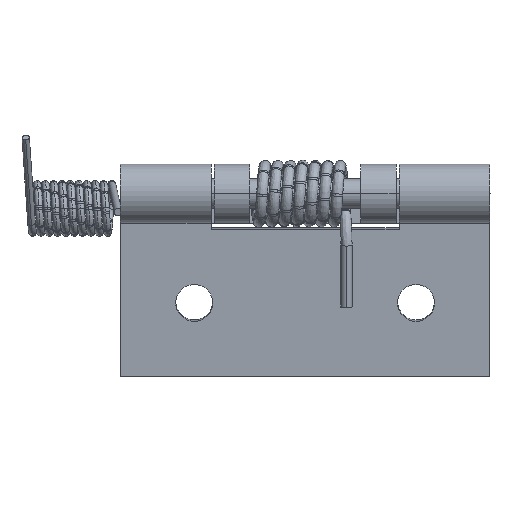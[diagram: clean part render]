
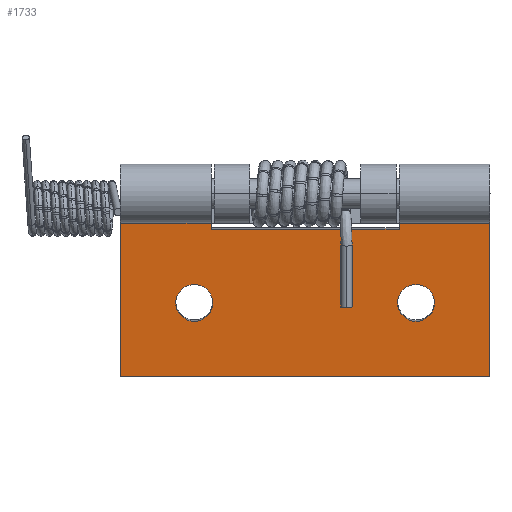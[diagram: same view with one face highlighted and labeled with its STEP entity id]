
A CAD part, left-side view. The second image highlights one B-rep face of the part: STEP entity #1733.
In plain terms, the highlighted planar face has unit normal (-0.996, 0, -0.087) as drawn and (0, 1, 0) by its records, which use the part's own axes.
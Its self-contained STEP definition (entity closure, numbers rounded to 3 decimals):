
#1223=CARTESIAN_POINT('',(-4.5,-2.,-17.5));
#1224=VERTEX_POINT('',#1223);
#1233=CARTESIAN_POINT('',(-4.5,-2.,-12.5));
#1234=VERTEX_POINT('',#1233);
#1235=CARTESIAN_POINT('',(-4.5,-2.,-15.0));
#1236=DIRECTION('',(0.0,-1.0,0.0));
#1237=DIRECTION('',(0.0,0.0,-1.0));
#1238=AXIS2_PLACEMENT_3D('',#1235,#1236,#1237);
#1239=CIRCLE('',#1238,2.5);
#1240=EDGE_CURVE('',#1234,#1224,#1239,.T.);
#1265=CARTESIAN_POINT('',(-4.5,-2.,12.5));
#1266=VERTEX_POINT('',#1265);
#1275=CARTESIAN_POINT('',(-4.5,-2.,17.5));
#1276=VERTEX_POINT('',#1275);
#1277=CARTESIAN_POINT('',(-4.5,-2.,15.0));
#1278=DIRECTION('',(0.0,-1.0,0.0));
#1279=DIRECTION('',(0.0,0.0,-1.0));
#1280=AXIS2_PLACEMENT_3D('',#1277,#1278,#1279);
#1281=CIRCLE('',#1280,2.5);
#1282=EDGE_CURVE('',#1276,#1266,#1281,.T.);
#1359=CARTESIAN_POINT('',(10.5,-2.,12.7));
#1360=VERTEX_POINT('',#1359);
#1368=CARTESIAN_POINT('',(10.5,-2.,25.0));
#1369=VERTEX_POINT('',#1368);
#1370=CARTESIAN_POINT('',(10.5,-2.,12.7));
#1371=DIRECTION('',(0.0,0.0,1.0));
#1372=VECTOR('',#1371,12.3);
#1373=LINE('',#1370,#1372);
#1374=EDGE_CURVE('',#1360,#1369,#1373,.T.);
#1443=CARTESIAN_POINT('',(10.5,-2.,-25.0));
#1444=VERTEX_POINT('',#1443);
#1452=CARTESIAN_POINT('',(10.5,-2.,-12.7));
#1453=VERTEX_POINT('',#1452);
#1454=CARTESIAN_POINT('',(10.5,-2.,-25.0));
#1455=DIRECTION('',(0.0,0.0,1.0));
#1456=VECTOR('',#1455,12.3);
#1457=LINE('',#1454,#1456);
#1458=EDGE_CURVE('',#1444,#1453,#1457,.T.);
#1567=CARTESIAN_POINT('',(5.5,-2.,12.7));
#1568=VERTEX_POINT('',#1567);
#1575=CARTESIAN_POINT('',(10.5,-2.,12.7));
#1576=DIRECTION('',(-1.0,0.0,0.0));
#1577=VECTOR('',#1576,5.);
#1578=LINE('',#1575,#1577);
#1579=EDGE_CURVE('',#1360,#1568,#1578,.T.);
#1606=CARTESIAN_POINT('',(5.5,-2.,-12.7));
#1607=VERTEX_POINT('',#1606);
#1608=CARTESIAN_POINT('',(5.5,-2.,12.7));
#1609=DIRECTION('',(0.0,0.0,-1.0));
#1610=VECTOR('',#1609,25.4);
#1611=LINE('',#1608,#1610);
#1612=EDGE_CURVE('',#1568,#1607,#1611,.T.);
#1653=CARTESIAN_POINT('',(5.5,-2.,-12.7));
#1654=DIRECTION('',(1.0,0.0,0.0));
#1655=VECTOR('',#1654,5.);
#1656=LINE('',#1653,#1655);
#1657=EDGE_CURVE('',#1607,#1453,#1656,.T.);
#1679=CARTESIAN_POINT('',(-14.5,-2.,-25.0));
#1680=DIRECTION('',(0.0,1.0,0.0));
#1681=DIRECTION('',(0.0,0.0,1.0));
#1682=AXIS2_PLACEMENT_3D('',#1679,#1680,#1681);
#1683=PLANE('',#1682);
#1684=ORIENTED_EDGE('',*,*,#1579,.T.);
#1685=ORIENTED_EDGE('',*,*,#1612,.T.);
#1686=ORIENTED_EDGE('',*,*,#1657,.T.);
#1687=ORIENTED_EDGE('',*,*,#1458,.F.);
#1688=CARTESIAN_POINT('',(-14.5,-2.,-25.0));
#1689=VERTEX_POINT('',#1688);
#1690=CARTESIAN_POINT('',(10.5,-2.,-25.0));
#1691=DIRECTION('',(-1.0,0.0,0.0));
#1692=VECTOR('',#1691,25.);
#1693=LINE('',#1690,#1692);
#1694=EDGE_CURVE('',#1444,#1689,#1693,.T.);
#1695=ORIENTED_EDGE('',*,*,#1694,.T.);
#1696=CARTESIAN_POINT('',(-14.5,-2.,25.0));
#1697=VERTEX_POINT('',#1696);
#1698=CARTESIAN_POINT('',(-14.5,-2.,-25.0));
#1699=DIRECTION('',(0.0,0.0,1.0));
#1700=VECTOR('',#1699,50.0);
#1701=LINE('',#1698,#1700);
#1702=EDGE_CURVE('',#1689,#1697,#1701,.T.);
#1703=ORIENTED_EDGE('',*,*,#1702,.T.);
#1704=CARTESIAN_POINT('',(-14.5,-2.,25.0));
#1705=DIRECTION('',(1.0,0.0,0.0));
#1706=VECTOR('',#1705,25.);
#1707=LINE('',#1704,#1706);
#1708=EDGE_CURVE('',#1697,#1369,#1707,.T.);
#1709=ORIENTED_EDGE('',*,*,#1708,.T.);
#1710=ORIENTED_EDGE('',*,*,#1374,.F.);
#1711=EDGE_LOOP('',(#1684,#1685,#1686,#1687,#1695,#1703,#1709,#1710));
#1712=FACE_OUTER_BOUND('',#1711,.T.);
#1713=ORIENTED_EDGE('',*,*,#1240,.T.);
#1714=CARTESIAN_POINT('',(-4.5,-2.,-15.0));
#1715=DIRECTION('',(0.0,-1.0,0.0));
#1716=DIRECTION('',(0.0,0.0,-1.0));
#1717=AXIS2_PLACEMENT_3D('',#1714,#1715,#1716);
#1718=CIRCLE('',#1717,2.5);
#1719=EDGE_CURVE('',#1224,#1234,#1718,.T.);
#1720=ORIENTED_EDGE('',*,*,#1719,.T.);
#1721=EDGE_LOOP('',(#1713,#1720));
#1722=FACE_BOUND('',#1721,.T.);
#1723=ORIENTED_EDGE('',*,*,#1282,.T.);
#1724=CARTESIAN_POINT('',(-4.5,-2.,15.0));
#1725=DIRECTION('',(0.0,-1.0,0.0));
#1726=DIRECTION('',(0.0,0.0,-1.0));
#1727=AXIS2_PLACEMENT_3D('',#1724,#1725,#1726);
#1728=CIRCLE('',#1727,2.5);
#1729=EDGE_CURVE('',#1266,#1276,#1728,.T.);
#1730=ORIENTED_EDGE('',*,*,#1729,.T.);
#1731=EDGE_LOOP('',(#1723,#1730));
#1732=FACE_BOUND('',#1731,.T.);
#1733=ADVANCED_FACE('',(#1712,#1722,#1732),#1683,.T.);
